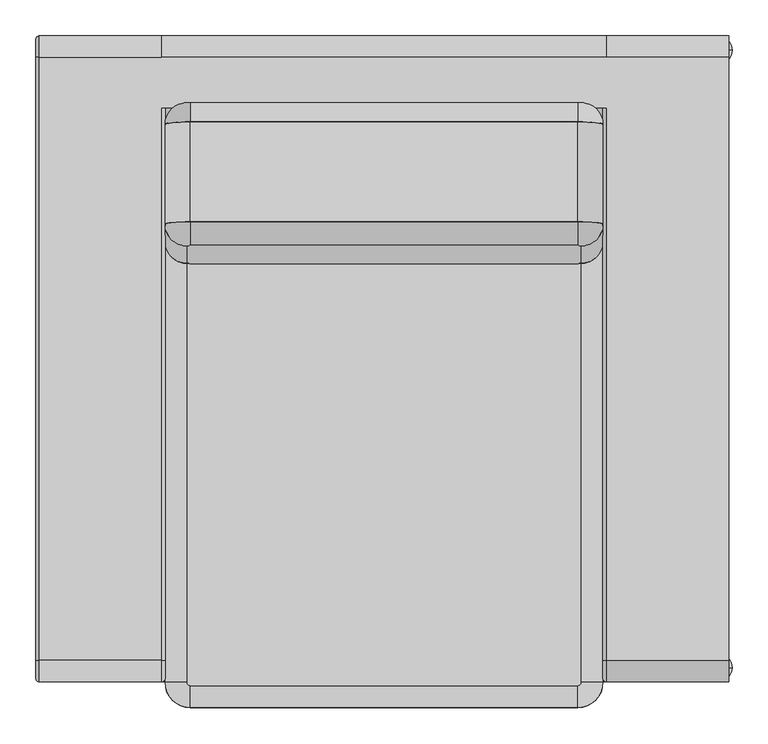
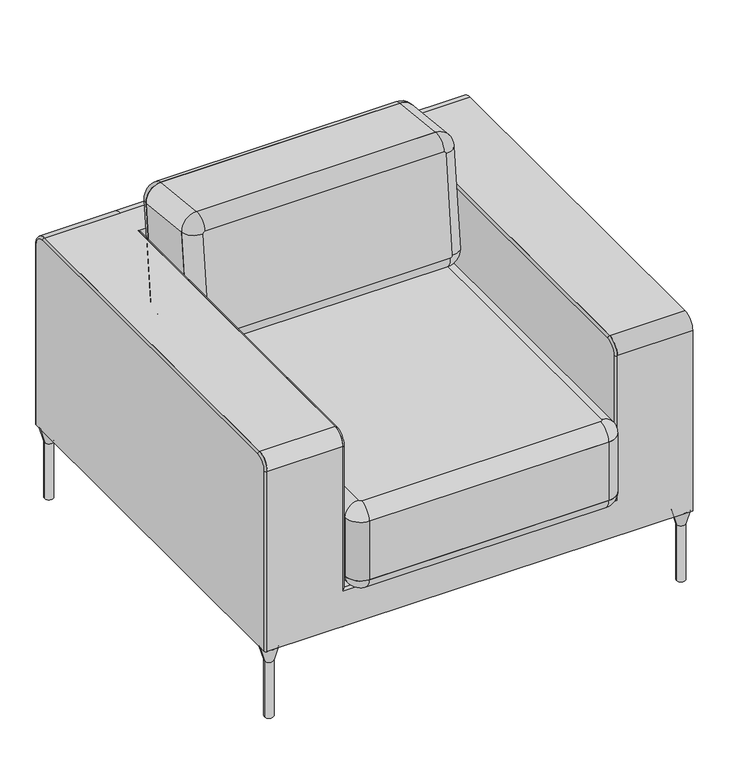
"""IFC4 building model written with IfcOpenShell, lengths in millimetres: furniture geometry, Armchair_Bensen_Neo_NEO100IT : Armchair_Bensen_Neo_NEO100IT."""

from ifc_helpers import new_model, si_unit, point, frame, frame_2d, origin, place, context, project, spatial, polyline, circle_curve, ellipse_curve, trimmed, segment, composite_curve, outline, extrude, source, transform, mapped, element, save
from ifc_brep_helpers import plane_surface, cylinder_surface, revolved_surface, advanced_brep


def furniture_efd74d04(model_context):
    return source(origin(), model_context, "Body", "SolidModel", [
        advanced_brep(
        [(269.9999999, -485.7516759, 289.4004127), (304.9999999, -450.7516759, 289.4004127), (304.9999999, 279.2483241, 289.4004127), (269.9999999, 314.2483241, 289.4004127), (-270.0000001, 314.2483241, 289.4004127), (-305.0000001, 279.2483241, 289.4004127), (-305.0000001, -450.7516759, 289.4004127), (-270.0000001, -485.7516759, 289.4004127), (274.9999999, -450.7516759, 259.4004127), (269.9999999, -455.7516759, 259.4004127), (-270.0000001, -455.7516759, 259.4004127), (-275.0000001, -450.7516759, 259.4004127), (-275.0000001, 279.2483241, 259.4004127), (-270.0000001, 284.2483241, 259.4004127), (269.9999999, 284.2483241, 259.4004127), (274.9999999, 279.2483241, 259.4004127)],
        [
            (0, 1, circle_curve(frame((269.9999999, -450.7516759, 289.4004127), z_axis=(0.0, 0.0, 1.0), x_axis=(1.0, 0.0, 0.0)), 35.0)),
            (1, 2),
            (2, 3, circle_curve(frame((269.9999999, 279.2483241, 289.4004127), z_axis=(0.0, 0.0, 1.0), x_axis=(0.0, 1.0, 0.0)), 35.0)),
            (3, 4),
            (4, 5, circle_curve(frame((-270.0000001, 279.2483241, 289.4004127), z_axis=(0.0, 0.0, 1.0), x_axis=(-1.0, 0.0, 0.0)), 35.0)),
            (5, 6),
            (6, 7, circle_curve(frame((-270.0000001, -450.7516759, 289.4004127), z_axis=(0.0, 0.0, 1.0), x_axis=(0.0, -1.0, 0.0)), 35.0)),
            (7, 0),
            (8, 9, circle_curve(frame((269.9999999, -450.7516759, 259.4004127), z_axis=(0.0, 0.0, -1.0), x_axis=(1.0, 0.0, 0.0)), 5.0)),
            (9, 10),
            (10, 11, circle_curve(frame((-270.0000001, -450.7516759, 259.4004127), z_axis=(0.0, 0.0, -1.0), x_axis=(0.0, -1.0, 0.0)), 5.0)),
            (11, 12),
            (12, 13, circle_curve(frame((-270.0000001, 279.2483241, 259.4004127), z_axis=(0.0, 0.0, -1.0), x_axis=(-1.0, 0.0, 0.0)), 5.0)),
            (13, 14),
            (14, 15, circle_curve(frame((269.9999999, 279.2483241, 259.4004127), z_axis=(0.0, 0.0, -1.0), x_axis=(0.0, 1.0, 0.0)), 5.0)),
            (15, 8),
            (8, 1, circle_curve(frame((274.9999999, -450.7516759, 289.4004127), z_axis=(0.0, -1.0, 0.0), x_axis=(1.0, 0.0, 0.0)), 30.0)),
            (0, 9, circle_curve(frame((269.9999999, -455.7516759, 289.4004127), z_axis=(1.0, 0.0, 0.0), x_axis=(0.0, -1.0, 0.0)), 30.0)),
            (7, 10, circle_curve(frame((-270.0000001, -455.7516759, 289.4004127), z_axis=(1.0, 0.0, 0.0), x_axis=(0.0, -1.0, 0.0)), 30.0)),
            (6, 11, circle_curve(frame((-275.0000001, -450.7516759, 289.4004127), z_axis=(0.0, -1.0, 0.0), x_axis=(-1.0, 0.0, 0.0)), 30.0)),
            (5, 12, circle_curve(frame((-275.0000001, 279.2483241, 289.4004127), z_axis=(0.0, -1.0, 0.0), x_axis=(-1.0, 0.0, 0.0)), 30.0)),
            (4, 13, circle_curve(frame((-270.0000001, 284.2483241, 289.4004127), z_axis=(-1.0, 0.0, 0.0), x_axis=(0.0, 1.0, 0.0)), 30.0)),
            (3, 14, circle_curve(frame((269.9999999, 284.2483241, 289.4004127), z_axis=(-1.0, 0.0, 0.0), x_axis=(0.0, 1.0, 0.0)), 30.0)),
            (2, 15, circle_curve(frame((274.9999999, 279.2483241, 289.4004127), z_axis=(0.0, 1.0, 0.0), x_axis=(1.0, 0.0, 0.0)), 30.0)),
        ],
        [
            plane_surface(frame((269.9999999, 274.2483241, 289.4004127), z_axis=(0.0, 0.0, 1.0), x_axis=(1.0, 0.0, 0.0))),
            plane_surface(frame((269.9999999, 274.2483241, 259.4004127), z_axis=(0.0, 0.0, -1.0), x_axis=(-1.0, 0.0, 0.0))),
            revolved_surface(trimmed(ellipse_curve(frame((274.9999999, -450.7516759, 289.4004127), z_axis=(0.0, 1.0, 0.0), x_axis=(1.0, 0.0, 0.0)), 30.0, 30.0), [point((304.9999999, -450.7516759, 289.4004127))], [point((274.9999999, -450.7516759, 259.4004127))], True, "CARTESIAN"), (269.9999999, -450.7516759, 289.4004127), (0.0, 0.0, -1.0)),
            cylinder_surface(frame((269.9999999, -455.7516759, 289.4004127), z_axis=(1.0, 0.0, 0.0), x_axis=(0.0, -1.0, 0.0)), 30.0),
            revolved_surface(trimmed(ellipse_curve(frame((-270.0000001, -455.7516759, 289.4004127), z_axis=(1.0, 0.0, 0.0), x_axis=(0.0, -1.0, 0.0)), 30.0, 30.0), [point((-270.0000001, -485.7516759, 289.4004127))], [point((-270.0000001, -455.7516759, 259.4004127))], True, "CARTESIAN"), (-270.0000001, -450.7516759, 289.4004127), (0.0, 0.0, -1.0)),
            cylinder_surface(frame((-275.0000001, -450.7516759, 289.4004127), z_axis=(0.0, -1.0, 0.0), x_axis=(-1.0, 0.0, 0.0)), 30.0),
            revolved_surface(trimmed(ellipse_curve(frame((-275.0000001, 279.2483241, 289.4004127), z_axis=(0.0, -1.0, 0.0), x_axis=(-1.0, 0.0, 0.0)), 30.0, 30.0), [point((-305.0000001, 279.2483241, 289.4004127))], [point((-275.0000001, 279.2483241, 259.4004127))], True, "CARTESIAN"), (-270.0000001, 279.2483241, 289.4004127), (0.0, 0.0, -1.0)),
            cylinder_surface(frame((-270.0000001, 284.2483241, 289.4004127), z_axis=(-1.0, 0.0, 0.0), x_axis=(0.0, 1.0, 0.0)), 30.0),
            revolved_surface(trimmed(ellipse_curve(frame((269.9999999, 284.2483241, 289.4004127), z_axis=(-1.0, 0.0, 0.0), x_axis=(0.0, 1.0, 0.0)), 30.0, 30.0), [point((269.9999999, 314.2483241, 289.4004127))], [point((269.9999999, 284.2483241, 259.4004127))], True, "CARTESIAN"), (269.9999999, 279.2483241, 289.4004127), (0.0, 0.0, -1.0)),
            cylinder_surface(frame((274.9999999, 279.2483241, 289.4004127), z_axis=(0.0, 1.0, 0.0), x_axis=(1.0, 0.0, 0.0)), 30.0),
        ],
        [
            (0, [[1, 2, 3, 4, 5, 6, 7, 8]]),
            (1, [[9, 10, 11, 12, 13, 14, 15, 16]]),
            (2, [[17, -1, 18, -9]]),
            (3, [[-18, -8, 19, -10]]),
            (4, [[-19, -7, 20, -11]]),
            (5, [[-20, -6, 21, -12]]),
            (6, [[-21, -5, 22, -13]]),
            (7, [[-22, -4, 23, -14]]),
            (8, [[-23, -3, 24, -15]]),
            (9, [[-17, -16, -24, -2]]),
        ],
    ),
        advanced_brep(
        [(269.9999999, -485.7516759, 429.4004127), (304.9999999, -450.7516759, 429.4004127), (274.9999999, -450.7516759, 459.4004127), (269.9999999, -455.7516759, 459.4004127), (-270.0000001, -455.7516759, 459.4004127), (-270.0000001, -485.7516759, 429.4004127), (-275.0000001, -450.7516759, 459.4004127), (-305.0000001, -450.7516759, 429.4004127), (-275.0000001, 279.2483241, 459.4004127), (-305.0000001, 279.2483241, 429.4004127), (-270.0000001, 284.2483241, 459.4004127), (-270.0000001, 314.2483241, 429.4004127), (269.9999999, 284.2483241, 459.4004127), (269.9999999, 314.2483241, 429.4004127), (274.9999999, 279.2483241, 459.4004127), (304.9999999, 279.2483241, 429.4004127)],
        [
            (0, 1, circle_curve(frame((269.9999999, -450.7516759, 429.4004127), z_axis=(0.0, 0.0, 1.0), x_axis=(1.0, 0.0, 0.0)), 35.0)),
            (1, 2, circle_curve(frame((274.9999999, -450.7516759, 429.4004127), z_axis=(0.0, -1.0, 0.0), x_axis=(1.0, 0.0, 0.0)), 30.0)),
            (2, 3, circle_curve(frame((269.9999999, -450.7516759, 459.4004127), z_axis=(0.0, 0.0, -1.0), x_axis=(1.0, 0.0, 0.0)), 5.0)),
            (3, 0, circle_curve(frame((269.9999999, -455.7516759, 429.4004127), z_axis=(1.0, 0.0, 0.0), x_axis=(0.0, -1.0, 0.0)), 30.0)),
            (3, 4),
            (4, 5, circle_curve(frame((-270.0000001, -455.7516759, 429.4004127), z_axis=(1.0, 0.0, 0.0), x_axis=(0.0, -1.0, 0.0)), 30.0)),
            (5, 0),
            (4, 6, circle_curve(frame((-270.0000001, -450.7516759, 459.4004127), z_axis=(0.0, 0.0, -1.0), x_axis=(0.0, -1.0, 0.0)), 5.0)),
            (6, 7, circle_curve(frame((-275.0000001, -450.7516759, 429.4004127), z_axis=(0.0, -1.0, 0.0), x_axis=(-1.0, 0.0, 0.0)), 30.0)),
            (7, 5, circle_curve(frame((-270.0000001, -450.7516759, 429.4004127), z_axis=(0.0, 0.0, 1.0), x_axis=(0.0, -1.0, 0.0)), 35.0)),
            (6, 8),
            (8, 9, circle_curve(frame((-275.0000001, 279.2483241, 429.4004127), z_axis=(0.0, -1.0, 0.0), x_axis=(-1.0, 0.0, 0.0)), 30.0)),
            (9, 7),
            (8, 10, circle_curve(frame((-270.0000001, 279.2483241, 459.4004127), z_axis=(0.0, 0.0, -1.0), x_axis=(-1.0, 0.0, 0.0)), 5.0)),
            (10, 11, circle_curve(frame((-270.0000001, 284.2483241, 429.4004127), z_axis=(-1.0, 0.0, 0.0), x_axis=(0.0, 1.0, 0.0)), 30.0)),
            (11, 9, circle_curve(frame((-270.0000001, 279.2483241, 429.4004127), z_axis=(0.0, 0.0, 1.0), x_axis=(-1.0, 0.0, 0.0)), 35.0)),
            (10, 12),
            (12, 13, circle_curve(frame((269.9999999, 284.2483241, 429.4004127), z_axis=(-1.0, 0.0, 0.0), x_axis=(0.0, 1.0, 0.0)), 30.0)),
            (13, 11),
            (12, 14, circle_curve(frame((269.9999999, 279.2483241, 459.4004127), z_axis=(0.0, 0.0, -1.0), x_axis=(0.0, 1.0, 0.0)), 5.0)),
            (14, 15, circle_curve(frame((274.9999999, 279.2483241, 429.4004127), z_axis=(0.0, 1.0, 0.0), x_axis=(1.0, 0.0, 0.0)), 30.0)),
            (15, 13, circle_curve(frame((269.9999999, 279.2483241, 429.4004127), z_axis=(0.0, 0.0, 1.0), x_axis=(0.0, 1.0, 0.0)), 35.0)),
            (1, 15),
            (14, 2),
        ],
        [
            revolved_surface(trimmed(ellipse_curve(frame((274.9999999, -450.7516759, 429.4004127), z_axis=(0.0, 1.0, 0.0), x_axis=(1.0, 0.0, 0.0)), 30.0, 30.0), [point((274.9999999, -450.7516759, 459.4004127))], [point((304.9999999, -450.7516759, 429.4004127))], True, "CARTESIAN"), (269.9999999, -450.7516759, 259.4004127), (0.0, 0.0, -1.0)),
            cylinder_surface(frame((269.9999999, -455.7516759, 429.4004127), z_axis=(1.0, 0.0, 0.0), x_axis=(0.0, -1.0, 0.0)), 30.0),
            revolved_surface(trimmed(ellipse_curve(frame((-270.0000001, -455.7516759, 429.4004127), z_axis=(1.0, 0.0, 0.0), x_axis=(0.0, -1.0, 0.0)), 30.0, 30.0), [point((-270.0000001, -455.7516759, 459.4004127))], [point((-270.0000001, -485.7516759, 429.4004127))], True, "CARTESIAN"), (-270.0000001, -450.7516759, 259.4004127), (0.0, 0.0, -1.0)),
            cylinder_surface(frame((-275.0000001, -450.7516759, 429.4004127), z_axis=(0.0, -1.0, 0.0), x_axis=(-1.0, 0.0, 0.0)), 30.0),
            revolved_surface(trimmed(ellipse_curve(frame((-275.0000001, 279.2483241, 429.4004127), z_axis=(0.0, -1.0, 0.0), x_axis=(-1.0, 0.0, 0.0)), 30.0, 30.0), [point((-275.0000001, 279.2483241, 459.4004127))], [point((-305.0000001, 279.2483241, 429.4004127))], True, "CARTESIAN"), (-270.0000001, 279.2483241, 259.4004127), (0.0, 0.0, -1.0)),
            cylinder_surface(frame((-270.0000001, 284.2483241, 429.4004127), z_axis=(-1.0, 0.0, 0.0), x_axis=(0.0, 1.0, 0.0)), 30.0),
            revolved_surface(trimmed(ellipse_curve(frame((269.9999999, 284.2483241, 429.4004127), z_axis=(-1.0, 0.0, 0.0), x_axis=(0.0, 1.0, 0.0)), 30.0, 30.0), [point((269.9999999, 284.2483241, 459.4004127))], [point((269.9999999, 314.2483241, 429.4004127))], True, "CARTESIAN"), (269.9999999, 279.2483241, 259.4004127), (0.0, 0.0, -1.0)),
            cylinder_surface(frame((274.9999999, 279.2483241, 429.4004127), z_axis=(0.0, 1.0, 0.0), x_axis=(1.0, 0.0, 0.0)), 30.0),
            plane_surface(frame((304.9999999, 279.2483241, 429.4004127), z_axis=(0.0, 0.0, -1.0), x_axis=(0.0, -1.0, 0.0))),
            plane_surface(frame((269.9999999, 274.2483241, 459.4004127), z_axis=(0.0, 0.0, 1.0), x_axis=(1.0, 0.0, 0.0))),
        ],
        [
            (0, [[1, 2, 3, 4]]),
            (1, [[-4, 5, 6, 7]]),
            (2, [[-6, 8, 9, 10]]),
            (3, [[-9, 11, 12, 13]]),
            (4, [[-12, 14, 15, 16]]),
            (5, [[-15, 17, 18, 19]]),
            (6, [[-18, 20, 21, 22]]),
            (7, [[-2, 23, -21, 24]]),
            (8, [[-1, -7, -10, -13, -16, -19, -22, -23]]),
            (9, [[-3, -24, -20, -17, -14, -11, -8, -5]]),
        ],
    ),
        extrude(outline(composite_curve([segment(polyline([(304.9999999, 279.2483241), (304.9999999, -450.7516759)]), True, "CONTINUOUS"), segment(trimmed(circle_curve(frame_2d((269.9999999, -450.7516759)), 35.0), [point((304.9999999, -450.7516759))], [point((269.9999999, -485.7516759))], False, "CARTESIAN"), True, "CONTINUOUS"), segment(polyline([(269.9999999, -485.7516759), (-270.0000001, -485.7516759)]), True, "CONTINUOUS"), segment(trimmed(circle_curve(frame_2d((-270.0000001, -450.7516759)), 35.0), [point((-270.0000001, -485.7516759))], [point((-305.0000001, -450.7516759))], False, "CARTESIAN"), True, "CONTINUOUS"), segment(polyline([(-305.0000001, -450.7516759), (-305.0000001, 279.2483241)]), True, "CONTINUOUS"), segment(trimmed(circle_curve(frame_2d((-270.0000001, 279.2483241)), 35.0), [point((-305.0000001, 279.2483241))], [point((-270.0000001, 314.2483241))], False, "CARTESIAN"), True, "CONTINUOUS"), segment(polyline([(-270.0000001, 314.2483241), (269.9999999, 314.2483241)]), True, "CONTINUOUS"), segment(trimmed(circle_curve(frame_2d((269.9999999, 279.2483241)), 35.0), [point((269.9999999, 314.2483241))], [point((304.9999999, 279.2483241))], False, "CARTESIAN"), True, "CONTINUOUS")], self_intersect=False)), frame((0.0, 0.0, 289.4004127), z_axis=(0.0, 0.0, 1.0), x_axis=(1.0, 0.0, 0.0)), (0.0, 0.0, 1.0), 140.0),
        advanced_brep(
        [(465.0275996, 430.0263245, 0.0), (474.8719303, 430.0263245, 0.0), (455.1832689, 430.0263245, 0.0), (445.0551992, 430.0263245, 170.0), (485.0, 430.0263245, 170.0), (465.0275996, 430.0263245, 170.0), (455.1832689, 430.0263245, 133.7982678), (474.8719303, 430.0263245, 133.7982678)],
        [
            (0, 1),
            (1, 2, circle_curve(frame((465.0275996, 430.0263245, 0.0), z_axis=(0.0, 0.0, -1.0), x_axis=(1.0, 0.0, 0.0)), 9.8443307)),
            (2, 0),
            (2, 1, circle_curve(frame((465.0275996, 430.0263245, 0.0), z_axis=(0.0, 0.0, -1.0), x_axis=(1.0, 0.0, 0.0)), 9.8443307)),
            (3, 4, circle_curve(frame((465.0275996, 430.0263245, 170.0), z_axis=(0.0, 0.0, 1.0), x_axis=(1.0, 0.0, 0.0)), 19.9724004)),
            (4, 5),
            (5, 3),
            (4, 3, circle_curve(frame((465.0275996, 430.0263245, 170.0), z_axis=(0.0, 0.0, 1.0), x_axis=(1.0, 0.0, 0.0)), 19.9724004)),
            (6, 7, circle_curve(frame((465.0275996, 430.0263245, 133.7982678), z_axis=(0.0, 0.0, 1.0), x_axis=(1.0, 0.0, 0.0)), 9.8443307)),
            (7, 4),
            (3, 6),
            (7, 6, circle_curve(frame((465.0275996, 430.0263245, 133.7982678), z_axis=(0.0, 0.0, 1.0), x_axis=(1.0, 0.0, 0.0)), 9.8443307)),
            (1, 7),
            (6, 2),
        ],
        [
            plane_surface(frame((465.0275996, 430.0263245, 0.0), z_axis=(0.0, 0.0, -1.0), x_axis=(1.0, 0.0, 0.0))),
            plane_surface(frame((465.0275996, 430.0263245, 170.0), z_axis=(0.0, 0.0, 1.0), x_axis=(1.0, 0.0, 0.0))),
            revolved_surface(polyline([(485.0, 430.0263245, 170.0), (474.8719303, 430.0263245, 133.7982678)]), (465.0275996, 430.0263245, 210.0), (0.0, 0.0, -1.0)),
            cylinder_surface(frame((465.0275996, 430.0263245, 210.0), z_axis=(0.0, 0.0, -1.0), x_axis=(1.0, 0.0, 0.0)), 9.8443307),
        ],
        [
            (0, [[1, 2, 3]]),
            (0, [[-3, 4, -1]]),
            (1, [[5, 6, 7]]),
            (1, [[8, -7, -6]]),
            (2, [[9, 10, -5, 11]]),
            (2, [[12, -11, -8, -10]]),
            (3, [[-2, 13, -9, 14]]),
            (3, [[-4, -14, -12, -13]]),
        ],
    ),
        advanced_brep(
        [(-465.0275996, 430.0263245, 0.0), (-455.1832689, 430.0263245, 0.0), (-474.8719303, 430.0263245, 0.0), (-445.0551992, 430.0263245, 170.0), (-465.0275996, 430.0263245, 170.0), (-485.0, 430.0263245, 170.0), (-455.1832689, 430.0263245, 133.7982678), (-474.8719303, 430.0263245, 133.7982678)],
        [
            (0, 1),
            (1, 2, circle_curve(frame((-465.0275996, 430.0263245, 0.0), z_axis=(0.0, 0.0, -1.0), x_axis=(-1.0, 0.0, 0.0)), 9.8443307)),
            (2, 0),
            (2, 1, circle_curve(frame((-465.0275996, 430.0263245, 0.0), z_axis=(0.0, 0.0, -1.0), x_axis=(-1.0, 0.0, 0.0)), 9.8443307)),
            (3, 4),
            (4, 5),
            (5, 3, circle_curve(frame((-465.0275996, 430.0263245, 170.0), z_axis=(0.0, 0.0, 1.0), x_axis=(-1.0, 0.0, 0.0)), 19.9724004)),
            (3, 5, circle_curve(frame((-465.0275996, 430.0263245, 170.0), z_axis=(0.0, 0.0, 1.0), x_axis=(-1.0, 0.0, 0.0)), 19.9724004)),
            (6, 3),
            (5, 7),
            (7, 6, circle_curve(frame((-465.0275996, 430.0263245, 133.7982678), z_axis=(0.0, 0.0, 1.0), x_axis=(-1.0, 0.0, 0.0)), 9.8443307)),
            (6, 7, circle_curve(frame((-465.0275996, 430.0263245, 133.7982678), z_axis=(0.0, 0.0, 1.0), x_axis=(-1.0, 0.0, 0.0)), 9.8443307)),
            (1, 6),
            (7, 2),
        ],
        [
            plane_surface(frame((-465.0275996, 430.0263245, 0.0), z_axis=(0.0, 0.0, -1.0), x_axis=(-1.0, 0.0, 0.0))),
            plane_surface(frame((-465.0275996, 430.0263245, 170.0), z_axis=(0.0, 0.0, 1.0), x_axis=(-1.0, 0.0, 0.0))),
            revolved_surface(polyline([(-485.0, 430.0263245, 170.0), (-474.8719303, 430.0263245, 133.7982678)]), (-465.0275996, 430.0263245, 210.0), (0.0, 0.0, -1.0)),
            cylinder_surface(frame((-465.0275996, 430.0263245, 210.0), z_axis=(0.0, 0.0, -1.0), x_axis=(-1.0, 0.0, 0.0)), 9.8443307),
        ],
        [
            (0, [[1, 2, 3]]),
            (0, [[-3, 4, -1]]),
            (1, [[5, 6, 7]]),
            (1, [[-6, -5, 8]]),
            (2, [[9, -7, 10, 11]]),
            (2, [[-10, -8, -9, 12]]),
            (3, [[13, -11, 14, -2]]),
            (3, [[-14, -12, -13, -4]]),
        ],
    ),
        advanced_brep(
        [(465.0275996, -430.0263245, 0.0), (455.1832689, -430.0263245, 0.0), (474.8719303, -430.0263245, 0.0), (445.0551992, -430.0263245, 170.0), (465.0275996, -430.0263245, 170.0), (485.0, -430.0263245, 170.0), (455.1832689, -430.0263245, 133.7982678), (474.8719303, -430.0263245, 133.7982678)],
        [
            (0, 1),
            (1, 2, circle_curve(frame((465.0275996, -430.0263245, 0.0), z_axis=(0.0, 0.0, -1.0), x_axis=(1.0, 0.0, 0.0)), 9.8443307)),
            (2, 0),
            (2, 1, circle_curve(frame((465.0275996, -430.0263245, 0.0), z_axis=(0.0, 0.0, -1.0), x_axis=(1.0, 0.0, 0.0)), 9.8443307)),
            (3, 4),
            (4, 5),
            (5, 3, circle_curve(frame((465.0275996, -430.0263245, 170.0), z_axis=(0.0, 0.0, 1.0), x_axis=(1.0, 0.0, 0.0)), 19.9724004)),
            (3, 5, circle_curve(frame((465.0275996, -430.0263245, 170.0), z_axis=(0.0, 0.0, 1.0), x_axis=(1.0, 0.0, 0.0)), 19.9724004)),
            (6, 3),
            (5, 7),
            (7, 6, circle_curve(frame((465.0275996, -430.0263245, 133.7982678), z_axis=(0.0, 0.0, 1.0), x_axis=(1.0, 0.0, 0.0)), 9.8443307)),
            (6, 7, circle_curve(frame((465.0275996, -430.0263245, 133.7982678), z_axis=(0.0, 0.0, 1.0), x_axis=(1.0, 0.0, 0.0)), 9.8443307)),
            (1, 6),
            (7, 2),
        ],
        [
            plane_surface(frame((465.0275996, -430.0263245, 0.0), z_axis=(0.0, 0.0, -1.0), x_axis=(1.0, 0.0, 0.0))),
            plane_surface(frame((465.0275996, -430.0263245, 170.0), z_axis=(0.0, 0.0, 1.0), x_axis=(1.0, 0.0, 0.0))),
            revolved_surface(polyline([(485.0, -430.0263245, 170.0), (474.8719303, -430.0263245, 133.7982678)]), (465.0275996, -430.0263245, 210.0), (0.0, 0.0, -1.0)),
            cylinder_surface(frame((465.0275996, -430.0263245, 210.0), z_axis=(0.0, 0.0, -1.0), x_axis=(1.0, 0.0, 0.0)), 9.8443307),
        ],
        [
            (0, [[1, 2, 3]]),
            (0, [[-3, 4, -1]]),
            (1, [[5, 6, 7]]),
            (1, [[-6, -5, 8]]),
            (2, [[9, -7, 10, 11]]),
            (2, [[-10, -8, -9, 12]]),
            (3, [[13, -11, 14, -2]]),
            (3, [[-14, -12, -13, -4]]),
        ],
    ),
        advanced_brep(
        [(-465.0275996, -430.0263245, 0.0), (-474.8719303, -430.0263245, 0.0), (-455.1832689, -430.0263245, 0.0), (-445.0551992, -430.0263245, 170.0), (-485.0, -430.0263245, 170.0), (-465.0275996, -430.0263245, 170.0), (-455.1832689, -430.0263245, 133.7982678), (-474.8719303, -430.0263245, 133.7982678)],
        [
            (0, 1),
            (1, 2, circle_curve(frame((-465.0275996, -430.0263245, 0.0), z_axis=(0.0, 0.0, -1.0), x_axis=(-1.0, 0.0, 0.0)), 9.8443307)),
            (2, 0),
            (2, 1, circle_curve(frame((-465.0275996, -430.0263245, 0.0), z_axis=(0.0, 0.0, -1.0), x_axis=(-1.0, 0.0, 0.0)), 9.8443307)),
            (3, 4, circle_curve(frame((-465.0275996, -430.0263245, 170.0), z_axis=(0.0, 0.0, 1.0), x_axis=(-1.0, 0.0, 0.0)), 19.9724004)),
            (4, 5),
            (5, 3),
            (4, 3, circle_curve(frame((-465.0275996, -430.0263245, 170.0), z_axis=(0.0, 0.0, 1.0), x_axis=(-1.0, 0.0, 0.0)), 19.9724004)),
            (6, 7, circle_curve(frame((-465.0275996, -430.0263245, 133.7982678), z_axis=(0.0, 0.0, 1.0), x_axis=(-1.0, 0.0, 0.0)), 9.8443307)),
            (7, 4),
            (3, 6),
            (7, 6, circle_curve(frame((-465.0275996, -430.0263245, 133.7982678), z_axis=(0.0, 0.0, 1.0), x_axis=(-1.0, 0.0, 0.0)), 9.8443307)),
            (1, 7),
            (6, 2),
        ],
        [
            plane_surface(frame((-465.0275996, -430.0263245, 0.0), z_axis=(0.0, 0.0, -1.0), x_axis=(-1.0, 0.0, 0.0))),
            plane_surface(frame((-465.0275996, -430.0263245, 170.0), z_axis=(0.0, 0.0, 1.0), x_axis=(-1.0, 0.0, 0.0))),
            revolved_surface(polyline([(-485.0, -430.0263245, 170.0), (-474.8719303, -430.0263245, 133.7982678)]), (-465.0275996, -430.0263245, 210.0), (0.0, 0.0, -1.0)),
            cylinder_surface(frame((-465.0275996, -430.0263245, 210.0), z_axis=(0.0, 0.0, -1.0), x_axis=(-1.0, 0.0, 0.0)), 9.8443307),
        ],
        [
            (0, [[1, 2, 3]]),
            (0, [[-3, 4, -1]]),
            (1, [[5, 6, 7]]),
            (1, [[8, -7, -6]]),
            (2, [[9, 10, -5, 11]]),
            (2, [[12, -11, -8, -10]]),
            (3, [[-2, 13, -9, 14]]),
            (3, [[-4, -14, -12, -13]]),
        ],
    ),
        advanced_brep(
        [(-270.0000001, 330.2036921, 743.2087665), (-305.0000001, 326.5451959, 708.4005002), (-305.0000001, 302.5036494, 479.6604642), (-270.0000001, 298.8451531, 444.8521979), (269.9999999, 298.8451531, 444.8521979), (304.9999999, 302.5036494, 479.6604642), (304.9999999, 326.5451959, 708.4005002), (269.9999999, 330.2036921, 743.2087665), (-275.0000001, 356.3808528, 705.2646463), (-270.0000001, 356.9034951, 710.2372557), (269.9999999, 356.9034951, 710.2372557), (274.9999999, 356.3808528, 705.2646463), (274.9999999, 332.3393062, 476.5246103), (269.9999999, 331.8166639, 471.5520008), (-270.0000001, 331.8166639, 471.5520008), (-275.0000001, 332.3393062, 476.5246103)],
        [
            (0, 1, circle_curve(frame((-270.0000001, 326.5451959, 708.4005002), z_axis=(0.0, -0.9945218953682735, 0.10452846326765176), x_axis=(-1.0, 0.0, 0.0)), 35.0)),
            (1, 2),
            (2, 3, circle_curve(frame((-270.0000001, 302.5036494, 479.6604642), z_axis=(0.0, -0.9945218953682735, 0.10452846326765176), x_axis=(0.0, -0.10452846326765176, -0.9945218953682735)), 35.0)),
            (3, 4),
            (4, 5, circle_curve(frame((269.9999999, 302.5036494, 479.6604642), z_axis=(0.0, -0.9945218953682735, 0.10452846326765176), x_axis=(1.0, 0.0, 0.0)), 35.0)),
            (5, 6),
            (6, 7, circle_curve(frame((269.9999999, 326.5451959, 708.4005002), z_axis=(0.0, -0.9945218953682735, 0.10452846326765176), x_axis=(0.0, 0.10452846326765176, 0.9945218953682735)), 35.0)),
            (7, 0),
            (8, 9, circle_curve(frame((-270.0000001, 356.3808528, 705.2646463), z_axis=(0.0, 0.9945218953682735, -0.10452846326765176), x_axis=(-1.0, 0.0, 0.0)), 5.0)),
            (9, 10),
            (10, 11, circle_curve(frame((269.9999999, 356.3808528, 705.2646463), z_axis=(0.0, 0.9945218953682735, -0.10452846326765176), x_axis=(0.0, 0.10452846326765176, 0.9945218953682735)), 5.0)),
            (11, 12),
            (12, 13, circle_curve(frame((269.9999999, 332.3393062, 476.5246103), z_axis=(0.0, 0.9945218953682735, -0.10452846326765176), x_axis=(1.0, 0.0, 0.0)), 5.0)),
            (13, 14),
            (14, 15, circle_curve(frame((-270.0000001, 332.3393062, 476.5246103), z_axis=(0.0, 0.9945218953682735, -0.10452846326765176), x_axis=(0.0, -0.10452846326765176, -0.9945218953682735)), 5.0)),
            (15, 8),
            (8, 1, circle_curve(frame((-275.0000001, 326.5451959, 708.4005002), z_axis=(0.0, 0.10452846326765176, 0.9945218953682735), x_axis=(-1.0, 0.0, 0.0)), 30.0)),
            (0, 9, circle_curve(frame((-270.0000001, 327.0678382, 713.3731096), z_axis=(-1.0, 0.0, 0.0), x_axis=(0.0, 0.10452846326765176, 0.9945218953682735)), 30.0)),
            (7, 10, circle_curve(frame((269.9999999, 327.0678382, 713.3731096), z_axis=(-1.0, 0.0, 0.0), x_axis=(0.0, 0.10452846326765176, 0.9945218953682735)), 30.0)),
            (6, 11, circle_curve(frame((274.9999999, 326.5451959, 708.4005002), z_axis=(0.0, 0.10452846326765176, 0.9945218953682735), x_axis=(1.0, 0.0, 0.0)), 30.0)),
            (5, 12, circle_curve(frame((274.9999999, 302.5036494, 479.6604642), z_axis=(0.0, 0.10452846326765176, 0.9945218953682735), x_axis=(1.0, 0.0, 0.0)), 30.0)),
            (4, 13, circle_curve(frame((269.9999999, 301.981007, 474.6878547), z_axis=(1.0, 0.0, 0.0), x_axis=(0.0, -0.10452846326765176, -0.9945218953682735)), 30.0)),
            (3, 14, circle_curve(frame((-270.0000001, 301.981007, 474.6878547), z_axis=(1.0, 0.0, 0.0), x_axis=(0.0, -0.10452846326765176, -0.9945218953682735)), 30.0)),
            (2, 15, circle_curve(frame((-275.0000001, 302.5036494, 479.6604642), z_axis=(0.0, -0.10452846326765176, -0.9945218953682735), x_axis=(-1.0, 0.0, 0.0)), 30.0)),
        ],
        [
            plane_surface(frame((-270.0000001, 303.0262917, 484.6330737), z_axis=(0.0, -0.9945218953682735, 0.10452846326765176), x_axis=(-1.0, 0.0, 0.0))),
            plane_surface(frame((-270.0000001, 332.8619485, 481.4972198), z_axis=(0.0, 0.9945218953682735, -0.10452846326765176), x_axis=(1.0, 0.0, 0.0))),
            revolved_surface(trimmed(ellipse_curve(frame((-275.0000001, 326.5451959, 708.4005002), z_axis=(0.0, -0.10452846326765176, -0.9945218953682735), x_axis=(-1.0, 0.0, 0.0)), 30.0, 30.0), [point((-305.0000001, 326.5451959, 708.4005002))], [point((-275.0000001, 356.3808528, 705.2646463))], True, "CARTESIAN"), (-270.0000001, 326.5451959, 708.4005002), (0.0, 0.9945218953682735, -0.10452846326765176)),
            cylinder_surface(frame((-270.0000001, 327.0678382, 713.3731096), z_axis=(-1.0, 0.0, 0.0), x_axis=(0.0, 0.10452846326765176, 0.9945218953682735)), 30.0),
            revolved_surface(trimmed(ellipse_curve(frame((269.9999999, 327.0678382, 713.3731096), z_axis=(-1.0, 0.0, 0.0), x_axis=(0.0, 0.10452846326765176, 0.9945218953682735)), 30.0, 30.0), [point((269.9999999, 330.2036921, 743.2087665))], [point((269.9999999, 356.9034951, 710.2372557))], True, "CARTESIAN"), (269.9999999, 326.5451959, 708.4005002), (0.0, 0.9945218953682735, -0.10452846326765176)),
            cylinder_surface(frame((274.9999999, 326.5451959, 708.4005002), z_axis=(0.0, 0.10452846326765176, 0.9945218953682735), x_axis=(1.0, 0.0, 0.0)), 30.0),
            revolved_surface(trimmed(ellipse_curve(frame((274.9999999, 302.5036494, 479.6604642), z_axis=(0.0, 0.10452846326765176, 0.9945218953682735), x_axis=(1.0, 0.0, 0.0)), 30.0, 30.0), [point((304.9999999, 302.5036494, 479.6604642))], [point((274.9999999, 332.3393062, 476.5246103))], True, "CARTESIAN"), (269.9999999, 302.5036494, 479.6604642), (0.0, 0.9945218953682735, -0.10452846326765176)),
            cylinder_surface(frame((269.9999999, 301.981007, 474.6878547), z_axis=(1.0, 0.0, 0.0), x_axis=(0.0, -0.10452846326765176, -0.9945218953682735)), 30.0),
            revolved_surface(trimmed(ellipse_curve(frame((-270.0000001, 301.981007, 474.6878547), z_axis=(1.0, 0.0, 0.0), x_axis=(0.0, -0.10452846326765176, -0.9945218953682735)), 30.0, 30.0), [point((-270.0000001, 298.8451531, 444.8521979))], [point((-270.0000001, 331.8166639, 471.5520008))], True, "CARTESIAN"), (-270.0000001, 302.5036494, 479.6604642), (0.0, 0.9945218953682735, -0.10452846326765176)),
            cylinder_surface(frame((-275.0000001, 302.5036494, 479.6604642), z_axis=(0.0, -0.10452846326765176, -0.9945218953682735), x_axis=(-1.0, 0.0, 0.0)), 30.0),
        ],
        [
            (0, [[1, 2, 3, 4, 5, 6, 7, 8]]),
            (1, [[9, 10, 11, 12, 13, 14, 15, 16]]),
            (2, [[17, -1, 18, -9]]),
            (3, [[-18, -8, 19, -10]]),
            (4, [[-19, -7, 20, -11]]),
            (5, [[-20, -6, 21, -12]]),
            (6, [[-21, -5, 22, -13]]),
            (7, [[-22, -4, 23, -14]]),
            (8, [[-23, -3, 24, -15]]),
            (9, [[-17, -16, -24, -2]]),
        ],
    ),
        advanced_brep(
        [(-270.0000001, 190.9706268, 757.8427514), (-305.0000001, 187.3121306, 723.034485), (-275.0000001, 157.4764737, 726.1703389), (-270.0000001, 157.999116, 731.1429484), (269.9999999, 157.999116, 731.1429484), (269.9999999, 190.9706268, 757.8427514), (274.9999999, 157.4764737, 726.1703389), (304.9999999, 187.3121306, 723.034485), (274.9999999, 133.4349271, 497.430303), (304.9999999, 163.270584, 494.2944491), (269.9999999, 132.9122848, 492.4576935), (269.9999999, 159.6120878, 459.4861827), (-270.0000001, 132.9122848, 492.4576935), (-270.0000001, 159.6120878, 459.4861827), (-275.0000001, 133.4349271, 497.430303), (-305.0000001, 163.270584, 494.2944491)],
        [
            (0, 1, circle_curve(frame((-270.0000001, 187.3121306, 723.034485), z_axis=(0.0, -0.9945218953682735, 0.10452846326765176), x_axis=(-1.0, 0.0, 0.0)), 35.0)),
            (1, 2, circle_curve(frame((-275.0000001, 187.3121306, 723.034485), z_axis=(0.0, 0.10452846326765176, 0.9945218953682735), x_axis=(-1.0, 0.0, 0.0)), 30.0)),
            (2, 3, circle_curve(frame((-270.0000001, 157.4764737, 726.1703389), z_axis=(0.0, 0.9945218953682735, -0.10452846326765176), x_axis=(-1.0, 0.0, 0.0)), 5.0)),
            (3, 0, circle_curve(frame((-270.0000001, 187.8347729, 728.0070945), z_axis=(-1.0, 0.0, 0.0), x_axis=(0.0, 0.10452846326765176, 0.9945218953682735)), 30.0)),
            (3, 4),
            (4, 5, circle_curve(frame((269.9999999, 187.8347729, 728.0070945), z_axis=(-1.0, 0.0, 0.0), x_axis=(0.0, 0.10452846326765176, 0.9945218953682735)), 30.0)),
            (5, 0),
            (4, 6, circle_curve(frame((269.9999999, 157.4764737, 726.1703389), z_axis=(0.0, 0.9945218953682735, -0.10452846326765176), x_axis=(0.0, 0.10452846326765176, 0.9945218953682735)), 5.0)),
            (6, 7, circle_curve(frame((274.9999999, 187.3121306, 723.034485), z_axis=(0.0, 0.10452846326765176, 0.9945218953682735), x_axis=(1.0, 0.0, 0.0)), 30.0)),
            (7, 5, circle_curve(frame((269.9999999, 187.3121306, 723.034485), z_axis=(0.0, -0.9945218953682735, 0.10452846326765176), x_axis=(0.0, 0.10452846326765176, 0.9945218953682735)), 35.0)),
            (6, 8),
            (8, 9, circle_curve(frame((274.9999999, 163.270584, 494.2944491), z_axis=(0.0, 0.10452846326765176, 0.9945218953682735), x_axis=(1.0, 0.0, 0.0)), 30.0)),
            (9, 7),
            (8, 10, circle_curve(frame((269.9999999, 133.4349271, 497.430303), z_axis=(0.0, 0.9945218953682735, -0.10452846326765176), x_axis=(1.0, 0.0, 0.0)), 5.0)),
            (10, 11, circle_curve(frame((269.9999999, 162.7479417, 489.3218396), z_axis=(1.0, 0.0, 0.0), x_axis=(0.0, -0.10452846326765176, -0.9945218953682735)), 30.0)),
            (11, 9, circle_curve(frame((269.9999999, 163.270584, 494.2944491), z_axis=(0.0, -0.9945218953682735, 0.10452846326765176), x_axis=(1.0, 0.0, 0.0)), 35.0)),
            (10, 12),
            (12, 13, circle_curve(frame((-270.0000001, 162.7479417, 489.3218396), z_axis=(1.0, 0.0, 0.0), x_axis=(0.0, -0.10452846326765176, -0.9945218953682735)), 30.0)),
            (13, 11),
            (12, 14, circle_curve(frame((-270.0000001, 133.4349271, 497.430303), z_axis=(0.0, 0.9945218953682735, -0.10452846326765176), x_axis=(0.0, -0.10452846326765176, -0.9945218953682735)), 5.0)),
            (14, 15, circle_curve(frame((-275.0000001, 163.270584, 494.2944491), z_axis=(0.0, -0.10452846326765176, -0.9945218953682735), x_axis=(-1.0, 0.0, 0.0)), 30.0)),
            (15, 13, circle_curve(frame((-270.0000001, 163.270584, 494.2944491), z_axis=(0.0, -0.9945218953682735, 0.10452846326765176), x_axis=(0.0, -0.10452846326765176, -0.9945218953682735)), 35.0)),
            (1, 15),
            (14, 2),
        ],
        [
            revolved_surface(trimmed(ellipse_curve(frame((-275.0000001, 187.3121306, 723.034485), z_axis=(0.0, -0.10452846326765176, -0.9945218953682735), x_axis=(-1.0, 0.0, 0.0)), 30.0, 30.0), [point((-275.0000001, 157.4764737, 726.1703389))], [point((-305.0000001, 187.3121306, 723.034485))], True, "CARTESIAN"), (-270.0000001, 356.3808528, 705.2646463), (0.0, 0.9945218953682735, -0.10452846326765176)),
            cylinder_surface(frame((-270.0000001, 187.8347729, 728.0070945), z_axis=(-1.0, 0.0, 0.0), x_axis=(0.0, 0.10452846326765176, 0.9945218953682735)), 30.0),
            revolved_surface(trimmed(ellipse_curve(frame((269.9999999, 187.8347729, 728.0070945), z_axis=(-1.0, 0.0, 0.0), x_axis=(0.0, 0.10452846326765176, 0.9945218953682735)), 30.0, 30.0), [point((269.9999999, 157.999116, 731.1429484))], [point((269.9999999, 190.9706268, 757.8427514))], True, "CARTESIAN"), (269.9999999, 356.3808528, 705.2646463), (0.0, 0.9945218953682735, -0.10452846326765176)),
            cylinder_surface(frame((274.9999999, 187.3121306, 723.034485), z_axis=(0.0, 0.10452846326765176, 0.9945218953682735), x_axis=(1.0, 0.0, 0.0)), 30.0),
            revolved_surface(trimmed(ellipse_curve(frame((274.9999999, 163.270584, 494.2944491), z_axis=(0.0, 0.10452846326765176, 0.9945218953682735), x_axis=(1.0, 0.0, 0.0)), 30.0, 30.0), [point((274.9999999, 133.4349271, 497.430303))], [point((304.9999999, 163.270584, 494.2944491))], True, "CARTESIAN"), (269.9999999, 332.3393062, 476.5246103), (0.0, 0.9945218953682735, -0.10452846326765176)),
            cylinder_surface(frame((269.9999999, 162.7479417, 489.3218396), z_axis=(1.0, 0.0, 0.0), x_axis=(0.0, -0.10452846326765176, -0.9945218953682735)), 30.0),
            revolved_surface(trimmed(ellipse_curve(frame((-270.0000001, 162.7479417, 489.3218396), z_axis=(1.0, 0.0, 0.0), x_axis=(0.0, -0.10452846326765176, -0.9945218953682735)), 30.0, 30.0), [point((-270.0000001, 132.9122848, 492.4576935))], [point((-270.0000001, 159.6120878, 459.4861827))], True, "CARTESIAN"), (-270.0000001, 332.3393062, 476.5246103), (0.0, 0.9945218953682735, -0.10452846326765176)),
            cylinder_surface(frame((-275.0000001, 163.270584, 494.2944491), z_axis=(0.0, -0.10452846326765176, -0.9945218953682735), x_axis=(-1.0, 0.0, 0.0)), 30.0),
            plane_surface(frame((-305.0000001, 163.270584, 494.2944491), z_axis=(0.0, 0.9945218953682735, -0.10452846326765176), x_axis=(0.0, 0.10452846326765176, 0.9945218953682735))),
            plane_surface(frame((-270.0000001, 133.9575695, 502.4029125), z_axis=(0.0, -0.9945218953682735, 0.10452846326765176), x_axis=(-1.0, 0.0, 0.0))),
        ],
        [
            (0, [[1, 2, 3, 4]]),
            (1, [[-4, 5, 6, 7]]),
            (2, [[-6, 8, 9, 10]]),
            (3, [[-9, 11, 12, 13]]),
            (4, [[-12, 14, 15, 16]]),
            (5, [[-15, 17, 18, 19]]),
            (6, [[-18, 20, 21, 22]]),
            (7, [[-2, 23, -21, 24]]),
            (8, [[-1, -7, -10, -13, -16, -19, -22, -23]]),
            (9, [[-3, -24, -20, -17, -14, -11, -8, -5]]),
        ],
    ),
        extrude(outline(composite_curve([segment(polyline([(-35.0, -35.0000001), (-35.0, 195.0)]), True, "CONTINUOUS"), segment(trimmed(circle_curve(frame_2d((0.0, 195.0)), 35.0), [point((-35.0, 195.0))], [point((0.0, 230.0))], False, "CARTESIAN"), True, "CONTINUOUS"), segment(polyline([(0.0, 230.0), (540.0, 230.0)]), True, "CONTINUOUS"), segment(trimmed(circle_curve(frame_2d((540.0, 195.0)), 35.0), [point((540.0, 230.0))], [point((575.0, 195.0))], False, "CARTESIAN"), True, "CONTINUOUS"), segment(polyline([(575.0, 195.0), (575.0, -35.0000001)]), True, "CONTINUOUS"), segment(trimmed(circle_curve(frame_2d((540.0, -35.0000001)), 35.0), [point((575.0, -35.0000001))], [point((540.0, -70.0))], False, "CARTESIAN"), True, "CONTINUOUS"), segment(polyline([(540.0, -70.0), (0.0, -70.0)]), True, "CONTINUOUS"), segment(trimmed(circle_curve(frame_2d((0.0, -35.0000001)), 35.0), [point((0.0, -70.0))], [point((-35.0, -35.0000001))], False, "CARTESIAN"), True, "CONTINUOUS")], self_intersect=False)), frame((-270.0000001, 306.1621456, 514.4687306), z_axis=(0.0, -0.9945218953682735, 0.10452846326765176), x_axis=(1.0, 0.0, 0.0)), (0.0, 0.0, 1.0), 140.0),
        advanced_brep(
        [(-310.0, -419.9987249, 629.5427565), (-310.0, -449.9987249, 599.5427565), (-310.0, -449.9987249, 254.4004127), (-310.0, -444.9987249, 259.4004127), (-310.0, 311.095197, 259.4004127), (-310.0, 349.998725, 629.5427565), (-480.0, -419.9987249, 629.5427565), (-480.0, 419.998725, 629.5427565), (-480.0, 449.998725, 599.5427565), (-480.0, 449.998725, 170.0), (-480.0, -449.9987249, 170.0), (-480.0, -449.9987249, 599.5427565), (480.0, -449.9987249, 170.0), (480.0, -449.9987249, 599.5427565), (310.0, -449.9987249, 599.5427565), (310.0, -449.9987249, 254.4004127), (480.0, 449.998725, 170.0), (-310.0, 449.998725, 599.5427565), (310.0, 449.998725, 599.5427565), (480.0, 449.998725, 599.5427565), (-310.0, 419.998725, 629.5427565), (310.0, 349.998725, 629.5427565), (310.0, -419.9987249, 629.5427565), (480.0, -419.9987249, 629.5427565), (480.0, 419.998725, 629.5427565), (310.0, 419.998725, 629.5427565), (310.0, -444.9987249, 259.4004127), (310.0, 311.095197, 259.4004127)],
        [
            (0, 1, circle_curve(frame((-310.0, -419.9987249, 599.5427565), z_axis=(1.0, 0.0, 0.0), x_axis=(0.0, -1.0, 0.0)), 30.0)),
            (1, 2),
            (2, 3, circle_curve(frame((-310.0, -444.9987249, 254.4004127), z_axis=(-1.0, 0.0, 0.0), x_axis=(0.0, -1.0, 0.0)), 5.0)),
            (3, 4),
            (4, 5),
            (5, 0),
            (6, 7),
            (7, 8, circle_curve(frame((-480.0, 419.998725, 599.5427565), z_axis=(-1.0, 0.0, 0.0), x_axis=(0.0, -1.0, 0.0)), 30.0)),
            (8, 9),
            (9, 10),
            (10, 11),
            (11, 6, circle_curve(frame((-480.0, -419.9987249, 599.5427565), z_axis=(-1.0, 0.0, 0.0), x_axis=(0.0, -1.0, 0.0)), 30.0)),
            (0, 6),
            (11, 1),
            (10, 12),
            (12, 13),
            (13, 14),
            (14, 15),
            (15, 2),
            (9, 16),
            (16, 12),
            (8, 17),
            (17, 18),
            (18, 19),
            (19, 16),
            (7, 20),
            (20, 17, circle_curve(frame((-310.0, 419.998725, 599.5427565), z_axis=(-1.0, 0.0, 0.0), x_axis=(0.0, -1.0, 0.0)), 30.0)),
            (5, 21),
            (21, 22),
            (22, 23),
            (23, 24),
            (24, 25),
            (25, 20),
            (3, 26),
            (26, 27),
            (27, 4),
            (15, 26, circle_curve(frame((310.0, -444.9987249, 254.4004127), z_axis=(-1.0, 0.0, 0.0), x_axis=(0.0, -1.0, 0.0)), 5.0)),
            (14, 22, circle_curve(frame((310.0, -419.9987249, 599.5427565), z_axis=(-1.0, 0.0, 0.0), x_axis=(0.0, -1.0, 0.0)), 30.0)),
            (21, 27),
            (23, 13, circle_curve(frame((480.0, -419.9987249, 599.5427565), z_axis=(1.0, 0.0, 0.0), x_axis=(0.0, -1.0, 0.0)), 30.0)),
            (19, 24, circle_curve(frame((480.0, 419.998725, 599.5427565), z_axis=(1.0, 0.0, 0.0), x_axis=(0.0, -1.0, 0.0)), 30.0)),
            (18, 25, circle_curve(frame((310.0, 419.998725, 599.5427565), z_axis=(1.0, 0.0, 0.0), x_axis=(0.0, -1.0, 0.0)), 30.0)),
        ],
        [
            plane_surface(frame((-310.0, -449.9987249, 599.5427565), z_axis=(1.0, 0.0, 0.0), x_axis=(0.0, 0.0, -1.0))),
            plane_surface(frame((-480.0, -449.9987249, 599.5427565), z_axis=(-1.0, 0.0, 0.0), x_axis=(0.0, 0.0, 1.0))),
            cylinder_surface(frame((-480.0, -419.9987249, 599.5427565), z_axis=(1.0, 0.0, 0.0), x_axis=(0.0, -1.0, 0.0)), 30.0),
            plane_surface(frame((-310.0, -449.9987249, 599.5427565), z_axis=(0.0, -1.0, 0.0), x_axis=(-1.0, 0.0, 0.0))),
            plane_surface(frame((-310.0, -449.9987249, 170.0), z_axis=(0.0, 0.0, -1.0), x_axis=(-1.0, 0.0, 0.0))),
            plane_surface(frame((-310.0, 449.998725, 170.0), z_axis=(0.0, 1.0, 0.0), x_axis=(-1.0, 0.0, 0.0))),
            cylinder_surface(frame((-480.0, 419.998725, 599.5427565), z_axis=(1.0, 0.0, 0.0), x_axis=(0.0, -1.0, 0.0)), 30.0),
            plane_surface(frame((-310.0, 419.998725, 629.5427565), z_axis=(0.0, 0.0, 1.0), x_axis=(-1.0, 0.0, 0.0))),
            plane_surface(frame((310.0, 311.095197, 259.4004127), z_axis=(0.0, 0.0, 1.0), x_axis=(-1.0, 0.0, 0.0))),
            cylinder_surface(frame((-310.0, -444.9987249, 254.4004127), z_axis=(1.0, 0.0, 0.0), x_axis=(0.0, -1.0, 0.0)), 5.0),
            plane_surface(frame((310.0, 449.998725, 629.5427565), z_axis=(-1.0, 0.0, 0.0), x_axis=(0.0, 1.0, 0.0))),
            plane_surface(frame((480.0, 449.998725, 629.5427565), z_axis=(1.0, 0.0, 0.0), x_axis=(0.0, -1.0, 0.0))),
            cylinder_surface(frame((480.0, -419.9987249, 599.5427565), z_axis=(-1.0, 0.0, 0.0), x_axis=(0.0, -1.0, 0.0)), 30.0),
            cylinder_surface(frame((480.0, 419.998725, 599.5427565), z_axis=(-1.0, 0.0, 0.0), x_axis=(0.0, -1.0, 0.0)), 30.0),
            plane_surface(frame((-310.0, 301.698701, 169.9987249), z_axis=(0.0, -0.9945218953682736, 0.10452846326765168), x_axis=(1.0, 0.0, 0.0))),
            cylinder_surface(frame((310.0, 419.998725, 599.5427565), z_axis=(-1.0, 0.0, 0.0), x_axis=(0.0, -1.0, 0.0)), 30.0),
        ],
        [
            (0, [[1, 2, 3, 4, 5, 6]]),
            (1, [[7, 8, 9, 10, 11, 12]]),
            (2, [[-1, 13, -12, 14]]),
            (3, [[-11, 15, 16, 17, 18, 19, -2, -14]]),
            (4, [[-10, 20, 21, -15]]),
            (5, [[-20, -9, 22, 23, 24, 25]]),
            (6, [[-8, 26, 27, -22]]),
            (7, [[-7, -13, -6, 28, 29, 30, 31, 32, 33, -26]]),
            (8, [[34, 35, 36, -4]]),
            (9, [[-19, 37, -34, -3]]),
            (10, [[38, -29, 39, -35, -37, -18]]),
            (11, [[40, -16, -21, -25, 41, -31]]),
            (12, [[-38, -17, -40, -30]]),
            (13, [[-41, -24, 42, -32]]),
            (14, [[-28, -5, -36, -39]]),
            (15, [[-33, -42, -23, -27]]),
        ],
    ),
        advanced_brep(
        [(310.0, -444.9987249, 259.4004127), (310.0, 349.998725, 259.4004127), (310.0, 349.998725, 629.5427565), (310.0, -419.9987249, 629.5427565), (310.0, -449.9987249, 599.5427565), (310.0, -449.9987249, 170.0), (310.0, -444.9987249, 170.0), (305.0000001, 349.998725, 624.5427565), (305.0000001, 349.998725, 259.4004127), (305.0000001, -444.9987249, 259.4004127), (305.0000001, -444.9987249, 599.5427565), (305.0000001, -419.9987249, 624.5427565), (305.0000001, -444.9987249, 170.0)],
        [
            (0, 1),
            (1, 2),
            (2, 3),
            (3, 4, circle_curve(frame((310.0, -419.9987249, 599.5427565), z_axis=(1.0, 0.0, 0.0), x_axis=(0.0, 0.0, 1.0)), 30.0)),
            (4, 5),
            (5, 6),
            (6, 0),
            (7, 8),
            (8, 9),
            (9, 10),
            (10, 11, circle_curve(frame((305.0000001, -419.9987249, 599.5427565), z_axis=(-1.0, 0.0, 0.0), x_axis=(0.0, 0.0, 1.0)), 25.0)),
            (11, 7),
            (0, 9),
            (8, 1),
            (7, 2, circle_curve(frame((310.0000001, 349.998725, 624.5427565), z_axis=(0.0, 1.0, 0.0), x_axis=(1.0, 0.0, 0.0)), 5.0)),
            (11, 3, circle_curve(frame((310.0000001, -419.9987249, 624.5427565), z_axis=(0.0, 1.0, 0.0), x_axis=(1.0, 0.0, 0.0)), 5.0)),
            (10, 4, circle_curve(frame((310.0000001, -444.9987249, 599.5427565), z_axis=(0.0, 0.0, 1.0), x_axis=(1.0, 0.0, 0.0)), 5.0)),
            (5, 12, circle_curve(frame((310.0000001, -444.9987249, 170.0), z_axis=(0.0, 0.0, -1.0), x_axis=(1.0, 0.0, 0.0)), 5.0)),
            (12, 6),
            (12, 9),
        ],
        [
            plane_surface(frame((310.0, -419.9987249, 624.5427565), z_axis=(1.0, 0.0, 0.0), x_axis=(0.0, -1.0, 0.0))),
            plane_surface(frame((305.0000001, -419.9987249, 624.5427565), z_axis=(-1.0, 0.0, 0.0), x_axis=(0.0, 1.0, 0.0))),
            plane_surface(frame((310.0, -444.9987249, 259.4004127), z_axis=(0.0, 0.0, -1.0), x_axis=(-1.0, 0.0, 0.0))),
            plane_surface(frame((310.0, 349.998725, 259.4004127), z_axis=(0.0, 1.0, 0.0), x_axis=(-1.0, 0.0, 0.0))),
            cylinder_surface(frame((310.0000001, 349.998725, 624.5427565), z_axis=(0.0, 1.0, 0.0), x_axis=(1.0, 0.0, 0.0)), 5.0),
            revolved_surface(trimmed(ellipse_curve(frame((310.0000001, -419.9987249, 624.5427565), z_axis=(0.0, 1.0, 0.0), x_axis=(1.0, 0.0, 0.0)), 5.0, 5.0), [point((305.0000001, -419.9987249, 624.5427565))], [point((310.0, -419.9987249, 629.5427565))], True, "CARTESIAN"), (0.0, -419.9987249, 599.5427565), (1.0, 0.0, 0.0)),
            plane_surface(frame((0.0, -449.9987249, 170.0), z_axis=(0.0, 0.0, -1.0), x_axis=(1.0, 0.0, 0.0))),
            plane_surface(frame((310.0, -444.9987249, 599.5427565), z_axis=(0.0, 1.0, 0.0), x_axis=(0.0, 0.0, -1.0))),
            cylinder_surface(frame((310.0000001, -444.9987249, 599.5427565), z_axis=(0.0, 0.0, 1.0), x_axis=(1.0, 0.0, 0.0)), 5.0),
        ],
        [
            (0, [[1, 2, 3, 4, 5, 6, 7]]),
            (1, [[8, 9, 10, 11, 12]]),
            (2, [[-1, 13, -9, 14]]),
            (3, [[-2, -14, -8, 15]]),
            (4, [[-15, -12, 16, -3]]),
            (5, [[-16, -11, 17, -4]]),
            (6, [[-6, 18, 19]]),
            (7, [[-19, 20, -13, -7]]),
            (8, [[-5, -17, -10, -20, -18]]),
        ],
    ),
        advanced_brep(
        [(-480.0, 449.998725, 170.0), (-480.0, 449.998725, 599.5427565), (-480.0, 419.998725, 629.5427565), (-480.0, -419.9987249, 629.5427565), (-480.0, -449.9987249, 599.5427565), (-480.0, -449.9987249, 170.0), (-485.0, 444.998725, 170.0), (-485.0, -444.9987249, 170.0), (-485.0, -444.9987249, 599.5427565), (-485.0, -419.9987249, 624.5427565), (-485.0, 419.998725, 624.5427565), (-485.0, 444.998725, 599.5427565)],
        [
            (0, 1),
            (1, 2, circle_curve(frame((-480.0, 419.998725, 599.5427565), z_axis=(1.0, 0.0, 0.0), x_axis=(0.0, 1.0, 0.0)), 30.0)),
            (2, 3),
            (3, 4, circle_curve(frame((-480.0, -419.9987249, 599.5427565), z_axis=(1.0, 0.0, 0.0), x_axis=(0.0, 0.0, 1.0)), 30.0)),
            (4, 5),
            (5, 0),
            (6, 7),
            (7, 8),
            (8, 9, circle_curve(frame((-485.0, -419.9987249, 599.5427565), z_axis=(-1.0, 0.0, 0.0), x_axis=(0.0, 0.0, 1.0)), 25.0)),
            (9, 10),
            (10, 11, circle_curve(frame((-485.0, 419.998725, 599.5427565), z_axis=(-1.0, 0.0, 0.0), x_axis=(0.0, 1.0, 0.0)), 25.0)),
            (11, 6),
            (5, 7, circle_curve(frame((-480.0, -444.9987249, 170.0), z_axis=(0.0, 0.0, -1.0), x_axis=(1.0, 0.0, 0.0)), 5.0)),
            (6, 0, circle_curve(frame((-480.0, 444.998725, 170.0), z_axis=(0.0, 0.0, -1.0), x_axis=(1.0, 0.0, 0.0)), 5.0)),
            (2, 10, circle_curve(frame((-480.0, 419.998725, 624.5427565), z_axis=(0.0, -1.0, 0.0), x_axis=(1.0, 0.0, 0.0)), 5.0)),
            (9, 3, circle_curve(frame((-480.0, -419.9987249, 624.5427565), z_axis=(0.0, 1.0, 0.0), x_axis=(1.0, 0.0, 0.0)), 5.0)),
            (8, 4, circle_curve(frame((-480.0, -444.9987249, 599.5427565), z_axis=(0.0, 0.0, 1.0), x_axis=(1.0, 0.0, 0.0)), 5.0)),
            (11, 1, circle_curve(frame((-480.0, 444.998725, 599.5427565), z_axis=(0.0, 0.0, -1.0), x_axis=(1.0, 0.0, 0.0)), 5.0)),
        ],
        [
            plane_surface(frame((-480.0, -419.9987249, 624.5427565), z_axis=(1.0, 0.0, 0.0), x_axis=(0.0, -1.0, 0.0))),
            plane_surface(frame((-485.0, -419.9987249, 624.5427565), z_axis=(-1.0, 0.0, 0.0), x_axis=(0.0, 1.0, 0.0))),
            plane_surface(frame((-480.0, -444.9987249, 170.0), z_axis=(0.0, 0.0, -1.0), x_axis=(-1.0, 0.0, 0.0))),
            cylinder_surface(frame((-480.0, 419.998725, 624.5427565), z_axis=(0.0, 1.0, 0.0), x_axis=(1.0, 0.0, 0.0)), 5.0),
            revolved_surface(trimmed(ellipse_curve(frame((-480.0, -419.9987249, 624.5427565), z_axis=(0.0, 1.0, 0.0), x_axis=(1.0, 0.0, 0.0)), 5.0, 5.0), [point((-485.0, -419.9987249, 624.5427565))], [point((-480.0, -419.9987249, 629.5427565))], True, "CARTESIAN"), (0.0, -419.9987249, 599.5427565), (1.0, 0.0, 0.0)),
            cylinder_surface(frame((-480.0, -444.9987249, 599.5427565), z_axis=(0.0, 0.0, 1.0), x_axis=(1.0, 0.0, 0.0)), 5.0),
            cylinder_surface(frame((-480.0, 444.998725, 170.0), z_axis=(0.0, 0.0, -1.0), x_axis=(1.0, 0.0, 0.0)), 5.0),
            revolved_surface(trimmed(ellipse_curve(frame((-480.0, 444.998725, 599.5427565), z_axis=(0.0, 0.0, -1.0), x_axis=(1.0, 0.0, 0.0)), 5.0, 5.0), [point((-485.0, 444.998725, 599.5427565))], [point((-480.0, 449.998725, 599.5427565))], True, "CARTESIAN"), (0.0, 419.998725, 599.5427565), (1.0, 0.0, 0.0)),
        ],
        [
            (0, [[1, 2, 3, 4, 5, 6]]),
            (1, [[7, 8, 9, 10, 11, 12]]),
            (2, [[-6, 13, -7, 14]]),
            (3, [[15, -10, 16, -3]]),
            (4, [[-16, -9, 17, -4]]),
            (5, [[-17, -8, -13, -5]]),
            (6, [[-14, -12, 18, -1]]),
            (7, [[-15, -2, -18, -11]]),
        ],
    ),
        advanced_brep(
        [(-310.0, 349.998725, 259.4004127), (-310.0, -444.9987249, 259.4004127), (-310.0, -444.9987249, 170.0), (-310.0, -449.9987249, 170.0), (-310.0, -449.9987249, 599.5427565), (-310.0, -419.9987249, 629.5427565), (-310.0, 349.998725, 629.5427565), (-305.0000001, -444.9987249, 259.4004127), (-305.0000001, 349.998725, 259.4004127), (-305.0000001, 349.998725, 624.5427565), (-305.0000001, -419.9987249, 624.5427565), (-305.0000001, -444.9987249, 599.5427565), (-305.0000001, -444.9987249, 170.0)],
        [
            (0, 1),
            (1, 2),
            (2, 3),
            (3, 4),
            (4, 5, circle_curve(frame((-310.0, -419.9987249, 599.5427565), z_axis=(-1.0, 0.0, 0.0), x_axis=(0.0, 0.0, 1.0)), 30.0)),
            (5, 6),
            (6, 0),
            (7, 8),
            (8, 9),
            (9, 10),
            (10, 11, circle_curve(frame((-305.0000001, -419.9987249, 599.5427565), z_axis=(1.0, 0.0, 0.0), x_axis=(0.0, 0.0, 1.0)), 25.0)),
            (11, 7),
            (0, 8),
            (7, 1),
            (6, 9, circle_curve(frame((-310.0000001, 349.998725, 624.5427565), z_axis=(0.0, 1.0, 0.0), x_axis=(-1.0, 0.0, 0.0)), 5.0)),
            (5, 10, circle_curve(frame((-310.0000001, -419.9987249, 624.5427565), z_axis=(0.0, 1.0, 0.0), x_axis=(-1.0, 0.0, 0.0)), 5.0)),
            (4, 11, circle_curve(frame((-310.0000001, -444.9987249, 599.5427565), z_axis=(0.0, 0.0, 1.0), x_axis=(-1.0, 0.0, 0.0)), 5.0)),
            (2, 12),
            (12, 3, circle_curve(frame((-310.0000001, -444.9987249, 170.0), z_axis=(0.0, 0.0, -1.0), x_axis=(-1.0, 0.0, 0.0)), 5.0)),
            (7, 12),
        ],
        [
            plane_surface(frame((-310.0, 349.998725, 624.5427565), z_axis=(-1.0, 0.0, 0.0), x_axis=(0.0, 1.0, 0.0))),
            plane_surface(frame((-305.0000001, 349.998725, 624.5427565), z_axis=(1.0, 0.0, 0.0), x_axis=(0.0, -1.0, 0.0))),
            plane_surface(frame((-310.0, 349.998725, 259.4004127), z_axis=(0.0, 0.0, -1.0), x_axis=(1.0, 0.0, 0.0))),
            plane_surface(frame((-310.0, 349.998725, 624.5427565), z_axis=(0.0, 1.0, 0.0), x_axis=(1.0, 0.0, 0.0))),
            cylinder_surface(frame((-310.0000001, 349.998725, 624.5427565), z_axis=(0.0, 1.0, 0.0), x_axis=(-1.0, 0.0, 0.0)), 5.0),
            revolved_surface(trimmed(ellipse_curve(frame((-310.0000001, -419.9987249, 624.5427565), z_axis=(0.0, 1.0, 0.0), x_axis=(-1.0, 0.0, 0.0)), 5.0, 5.0), [point((-310.0, -419.9987249, 629.5427565))], [point((-305.0000001, -419.9987249, 624.5427565))], True, "CARTESIAN"), (0.0, -419.9987249, 599.5427565), (1.0, 0.0, 0.0)),
            plane_surface(frame((0.0, -449.9987249, 170.0), z_axis=(0.0, 0.0, -1.0), x_axis=(-1.0, 0.0, 0.0))),
            plane_surface(frame((-305.0000001, -444.9987249, 599.5427565), z_axis=(0.0, 1.0, 0.0), x_axis=(0.0, 0.0, -1.0))),
            cylinder_surface(frame((-310.0000001, -444.9987249, 599.5427565), z_axis=(0.0, 0.0, 1.0), x_axis=(-1.0, 0.0, 0.0)), 5.0),
        ],
        [
            (0, [[1, 2, 3, 4, 5, 6, 7]]),
            (1, [[8, 9, 10, 11, 12]]),
            (2, [[-1, 13, -8, 14]]),
            (3, [[-7, 15, -9, -13]]),
            (4, [[-15, -6, 16, -10]]),
            (5, [[-16, -5, 17, -11]]),
            (6, [[-3, 18, 19]]),
            (7, [[-18, -2, -14, 20]]),
            (8, [[-4, -19, -20, -12, -17]]),
        ],
    ),
    ])


if __name__ == "__main__":
    model = new_model("IFC4")
    model_context = context("Model", 3, world=origin())
    ifc_project = project(units=[si_unit("LENGTHUNIT", "METRE", prefix="MILLI")], contexts=[model_context])
    site = spatial("IfcSite", under=ifc_project)
    building = spatial("IfcBuilding", under=site)
    placement = place(None, origin())
    furniture_shape = furniture_efd74d04(model_context)
    element("IfcFurniture", 1, ObjectType="Armchair_Bensen_Neo_NEO100IT : Armchair_Bensen_Neo_NEO100IT", at=placement, inside=building, context=model_context, shape_type="MappedRepresentation", body=[
        mapped(furniture_shape, transform((0.0, 0.0, 0.0), x_axis=(1.0, 0.0, 0.0), y_axis=(0.0, 1.0, 0.0), z_axis=(0.0, 0.0, 1.0))),
    ])
    save(model, "model.ifc")
